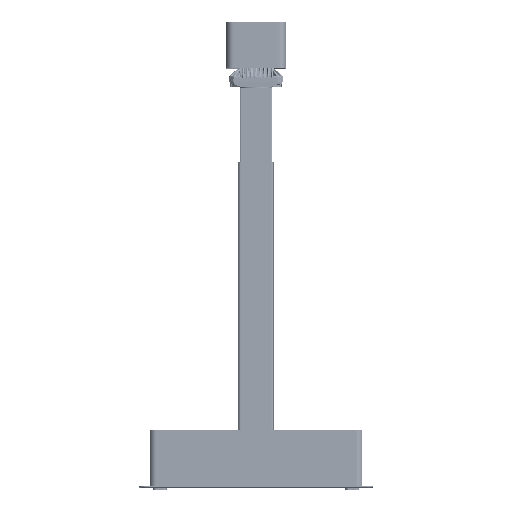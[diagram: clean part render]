
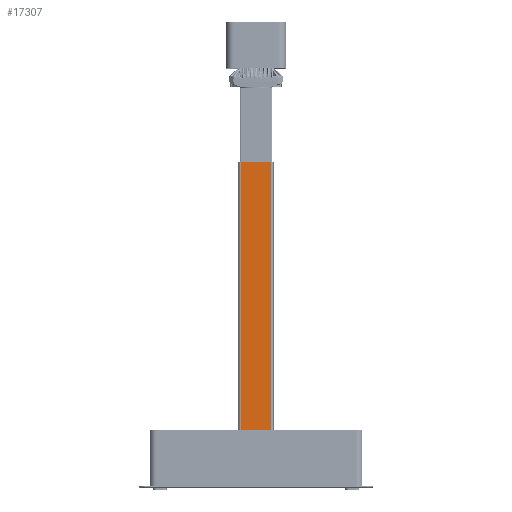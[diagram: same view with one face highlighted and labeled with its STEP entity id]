
A CAD part, top view. The second image highlights one B-rep face of the part: STEP entity #17307.
In plain terms, the highlighted planar face has unit normal (0, 0, 1) as drawn and (0, 1, 0) by its records, which use the part's own axes.
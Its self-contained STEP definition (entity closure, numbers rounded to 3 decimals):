
#16406=DIRECTION('',(0.,0.,-1.));
#16407=VECTOR('',#16406,470.2);
#16408=CARTESIAN_POINT('',(-22.5,14.,470.2));
#16409=LINE('',#16408,#16407);
#16410=DIRECTION('',(0.,0.,-1.));
#16411=VECTOR('',#16410,470.2);
#16412=CARTESIAN_POINT('',(22.5,14.,470.2));
#16413=LINE('',#16412,#16411);
#16422=DIRECTION('',(-1.,0.,0.));
#16423=VECTOR('',#16422,45.);
#16424=CARTESIAN_POINT('',(22.5,14.,0.));
#16425=LINE('',#16424,#16423);
#16434=DIRECTION('',(-1.,0.,0.));
#16435=VECTOR('',#16434,45.);
#16436=CARTESIAN_POINT('',(22.5,14.,470.2));
#16437=LINE('',#16436,#16435);
#16886=CARTESIAN_POINT('',(-22.5,14.,470.2));
#16887=CARTESIAN_POINT('',(-22.5,14.,0.));
#16888=VERTEX_POINT('',#16886);
#16889=VERTEX_POINT('',#16887);
#16898=CARTESIAN_POINT('',(22.5,14.,470.2));
#16899=CARTESIAN_POINT('',(22.5,14.,0.));
#16900=VERTEX_POINT('',#16898);
#16901=VERTEX_POINT('',#16899);
#17294=CARTESIAN_POINT('',(25.5,14.,0.));
#17295=DIRECTION('',(0.,1.,0.));
#17296=DIRECTION('',(-1.,0.,0.));
#17297=AXIS2_PLACEMENT_3D('',#17294,#17295,#17296);
#17298=PLANE('',#17297);
#17299=ORIENTED_EDGE('',*,*,#17284,.T.);
#17301=ORIENTED_EDGE('',*,*,#17300,.F.);
#17302=ORIENTED_EDGE('',*,*,#17156,.F.);
#17304=ORIENTED_EDGE('',*,*,#17303,.T.);
#17305=EDGE_LOOP('',(#17299,#17301,#17302,#17304));
#17306=FACE_OUTER_BOUND('',#17305,.F.);
#17156=EDGE_CURVE('',#16900,#16901,#16413,.T.);
#17284=EDGE_CURVE('',#16888,#16889,#16409,.T.);
#17300=EDGE_CURVE('',#16901,#16889,#16425,.T.);
#17303=EDGE_CURVE('',#16900,#16888,#16437,.T.);
#17307=ADVANCED_FACE('',(#17306),#17298,.T.);
